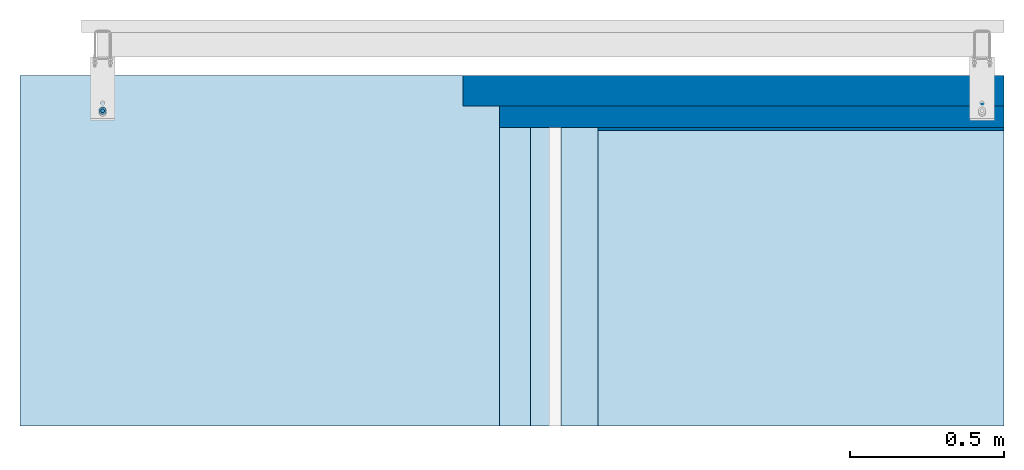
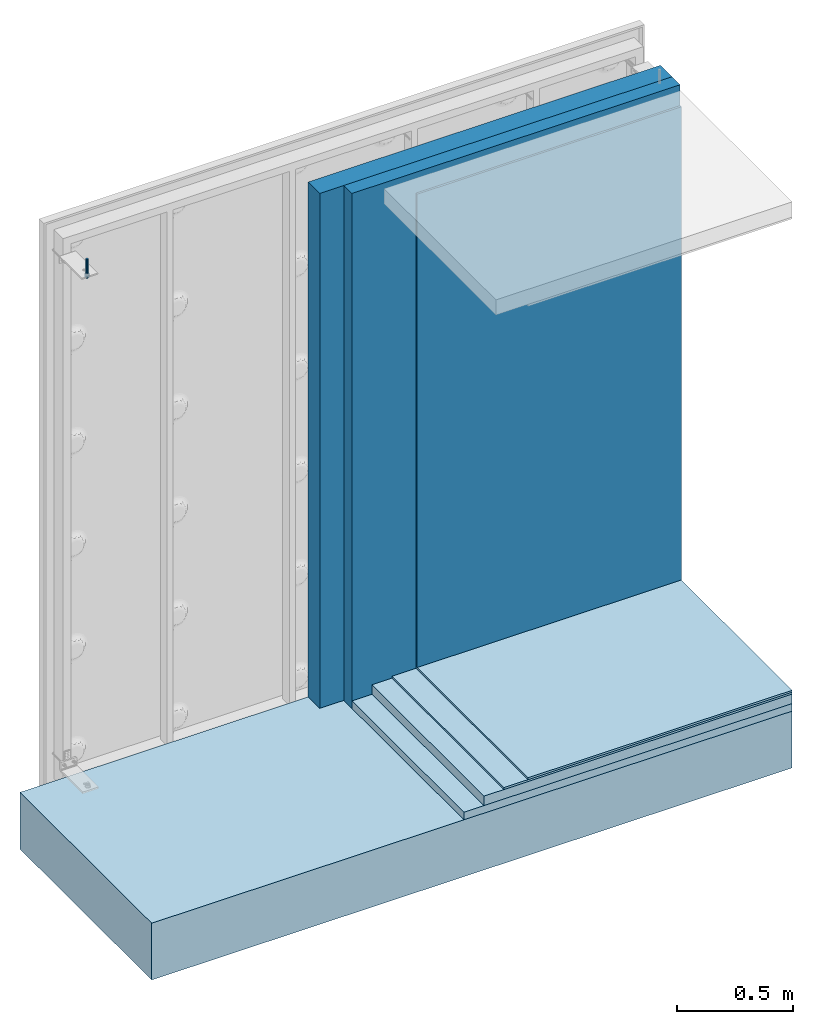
# One storey, part 1 of 13: 5 slabs, 3 walls, 1 assembly.
"""IFC2X3 building model written with IfcOpenShell, lengths in metres."""

from ifc_helpers import new_model, entity, si_unit, converted_unit, derived_unit, direction, frame, frame_2d, origin, origin_2d_with_axis, place, context, subcontext, project, spatial, polyline, circle_curve, parameter, trimmed, segment, composite_curve, rectangle, circle, hollow_circle, outline, extrude, source, transform, mapped, material, layer, layer_set, layer_usage, type_object, type_shapes, element, save


model = new_model("IFC2X3")

# Units and contexts
model_context = context("Model", 3, precision=1e-05, world=origin(), true_north=direction((6.123031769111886e-17, 1.0)))
body_context = subcontext(model_context, "Body", "Model", "MODEL_VIEW")
ifc_project = project(units=[si_unit("LENGTHUNIT", "METRE"), si_unit("AREAUNIT", "SQUARE_METRE"), converted_unit("PLANEANGLEUNIT", "DEGREE", entity("IfcPlaneAngleMeasure", 0.017453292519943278), si_unit("PLANEANGLEUNIT", "RADIAN"), dimensions=[0, 0, 0, 0, 0, 0, 0]), si_unit("VOLUMEUNIT", "CUBIC_METRE"), derived_unit("THERMALTRANSMITTANCEUNIT", [(si_unit("MASSUNIT", "GRAM", prefix="KILO"), 1), (si_unit("THERMODYNAMICTEMPERATUREUNIT", "KELVIN"), -1), (si_unit("TIMEUNIT", "SECOND"), -3)]), derived_unit("USERDEFINED", [(si_unit("MASSUNIT", "GRAM", prefix="KILO"), 1), (si_unit("THERMODYNAMICTEMPERATUREUNIT", "KELVIN"), -1), (si_unit("TIMEUNIT", "SECOND"), -2)]), derived_unit("THERMALRESISTANCEUNIT", [(si_unit("MASSUNIT", "GRAM", prefix="KILO"), -1), (si_unit("TIMEUNIT", "SECOND"), 3), (si_unit("THERMODYNAMICTEMPERATUREUNIT", "KELVIN"), 1)]), derived_unit("MASSDENSITYUNIT", [(si_unit("MASSUNIT", "GRAM", prefix="KILO"), 1), (si_unit("LENGTHUNIT", "METRE"), -3)]), derived_unit("VAPORPERMEABILITYUNIT", [(si_unit("LENGTHUNIT", "METRE"), -1), (si_unit("TIMEUNIT", "SECOND"), 1)]), derived_unit("USERDEFINED", [(si_unit("MASSUNIT", "GRAM", prefix="KILO"), 1), (si_unit("TIMEUNIT", "SECOND"), -3), (si_unit("LENGTHUNIT", "METRE"), 3), (si_unit("ELECTRICCURRENTUNIT", "AMPERE"), -2)]), si_unit("PRESSUREUNIT", "PASCAL")], contexts=[model_context])

# Site, building, storey
site_placement = place(None, origin())
site = spatial("IfcSite", under=ifc_project, at=site_placement, Name="Default", CompositionType="ELEMENT")
building_placement = place(site_placement, origin())
building = spatial("IfcBuilding", under=site, at=building_placement, CompositionType="ELEMENT")
storey_placement = place(building_placement, origin())
storey = spatial("IfcBuildingStorey", under=building, at=storey_placement, Name="L0", CompositionType="ELEMENT", Elevation=0.0)

# Slabs
ifc_material_1 = material(Name="DPG_Losa Principal Obra")
ifc_layer_1 = layer(ifc_material_1, 0.30000000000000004)
ifc_layer_set_1 = layer_set([ifc_layer_1], Name="Suelo:DPG_Losa Principal Obra")
ifc_layer_usage_1 = layer_usage(ifc_layer_set_1, "AXIS3", "POSITIVE", 0.0)
slab_type_1 = type_object("IfcSlabType", Name="Suelo:DPG_Losa Principal Obra", PredefinedType="FLOOR", material=ifc_layer_set_1)
slab_1_placement = place(storey_placement, origin())
element("IfcSlab", 1, at=slab_1_placement, inside=storey, type_object=slab_type_1, material=ifc_layer_usage_1, Name="Suelo:DPG_Losa Principal Obra", ObjectType="Suelo:DPG_Losa Principal Obra", PredefinedType="FLOOR", context=body_context, shape_type="SweptSolid", body=[
    extrude(rectangle(XDim=1.140000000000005, YDim=3.2, at=origin_2d_with_axis()), frame((6.287720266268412, 15.364530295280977, 0.0), z_axis=(0.0, 0.0, -1.0), x_axis=(0.0, 1.0, 0.0)), (0.0, 0.0, 1.0), 0.30000000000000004),
])
ifc_material_2 = material(Name="Lana de roca")
ifc_layer_2 = layer(ifc_material_2, 0.04)
ifc_layer_set_2 = layer_set([ifc_layer_2], Name="Suelo:DPG_Aislamiento Suelo")
ifc_layer_usage_2 = layer_usage(ifc_layer_set_2, "AXIS3", "POSITIVE", 0.0)
slab_type_2 = type_object("IfcSlabType", Name="Suelo:DPG_Aislamiento Suelo", PredefinedType="FLOOR", material=ifc_layer_set_2)
slab_2_placement = place(storey_placement, origin())
element("IfcSlab", 2, at=slab_2_placement, inside=storey, type_object=slab_type_2, material=ifc_layer_usage_2, Name="Suelo:DPG_Aislamiento Suelo", ObjectType="Suelo:DPG_Aislamiento Suelo", PredefinedType="FLOOR", context=body_context, shape_type="SweptSolid", body=[
    extrude(rectangle(XDim=0.9699999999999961, YDim=1.6399999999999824, at=origin_2d_with_axis()), frame((7.067720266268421, 15.279530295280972, 0.04), z_axis=(0.0, 0.0, -1.0), x_axis=(0.0, 1.0, 0.0)), (0.0, 0.0, 1.0), 0.04),
])
ifc_material_3 = material(Name="Hormigón, ligero")
ifc_layer_3 = layer(ifc_material_3, 0.05)
ifc_layer_set_3 = layer_set([ifc_layer_3], Name="Suelo:DPG_Recrecido")
ifc_layer_usage_3 = layer_usage(ifc_layer_set_3, "AXIS3", "POSITIVE", 0.0)
slab_type_3 = type_object("IfcSlabType", Name="Suelo:DPG_Recrecido", PredefinedType="FLOOR", material=ifc_layer_set_3)
slab_3_placement = place(storey_placement, origin())
element("IfcSlab", 3, at=slab_3_placement, inside=storey, type_object=slab_type_3, material=ifc_layer_usage_3, Name="Suelo:DPG_Recrecido", ObjectType="Suelo:DPG_Recrecido", PredefinedType="FLOOR", context=body_context, shape_type="SweptSolid", body=[
    extrude(rectangle(XDim=0.9699999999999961, YDim=1.5399999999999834, at=origin_2d_with_axis()), frame((7.11772026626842, 15.279530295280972, 0.09), z_axis=(0.0, 0.0, -1.0), x_axis=(0.0, 1.0, 0.0)), (0.0, 0.0, 1.0), 0.05),
])
ifc_material_4 = material(Name="Hormigón - Hormigón moldeado in situ")
ifc_layer_4 = layer(ifc_material_4, 0.01)
ifc_layer_set_4 = layer_set([ifc_layer_4], Name="Suelo:DPG_Pegamento cemento")
ifc_layer_usage_4 = layer_usage(ifc_layer_set_4, "AXIS3", "POSITIVE", 0.0)
slab_type_4 = type_object("IfcSlabType", Name="Suelo:DPG_Pegamento cemento", PredefinedType="FLOOR", material=ifc_layer_set_4)
slab_4_placement = place(storey_placement, origin())
element("IfcSlab", 4, at=slab_4_placement, inside=storey, type_object=slab_type_4, material=ifc_layer_usage_4, Name="Suelo:DPG_Pegamento cemento", ObjectType="Suelo:DPG_Pegamento cemento", PredefinedType="FLOOR", context=body_context, shape_type="SweptSolid", body=[
    extrude(rectangle(XDim=0.969999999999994, YDim=1.4399999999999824, at=frame_2d((1.0824674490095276e-15, 0.0), x_axis=(1.0, 0.0))), frame((7.167720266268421, 15.27953029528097, 0.09999999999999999), z_axis=(0.0, 0.0, -1.0), x_axis=(0.0, 1.0, 0.0)), (0.0, 0.0, 1.0), 0.009999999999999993),
])
ifc_material_5 = material(Name="Azulejo, porcelana, 6 pulg.")
ifc_layer_5 = layer(ifc_material_5, 0.01)
ifc_layer_set_5 = layer_set([ifc_layer_5], Name="Suelo:DPG_Ceramica")
ifc_layer_usage_5 = layer_usage(ifc_layer_set_5, "AXIS3", "POSITIVE", 0.0)
slab_type_5 = type_object("IfcSlabType", Name="Suelo:DPG_Ceramica", PredefinedType="FLOOR", material=ifc_layer_set_5)
slab_5_placement = place(storey_placement, origin())
element("IfcSlab", 5, at=slab_5_placement, inside=storey, type_object=slab_type_5, material=ifc_layer_usage_5, Name="Suelo:DPG_Ceramica", ObjectType="Suelo:DPG_Ceramica", PredefinedType="FLOOR", context=body_context, shape_type="SweptSolid", body=[
    extrude(rectangle(XDim=0.9699999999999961, YDim=1.3199999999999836, at=origin_2d_with_axis()), frame((7.22772026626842, 15.279530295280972, 0.10999999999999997), z_axis=(0.0, 0.0, -1.0), x_axis=(0.0, 1.0, 0.0)), (0.0, 0.0, 1.0), 0.009999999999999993),
])

# Walls
ifc_layer_6 = layer(ifc_material_2, 0.1)
ifc_layer_set_6 = layer_set([ifc_layer_6], Name="Muro básico:DPG_Aislamiento")
ifc_layer_usage_6 = layer_usage(ifc_layer_set_6, "AXIS2", "NEGATIVE", 0.05)
wall_type_1 = type_object("IfcWallType", Name="Muro básico:DPG_Aislamiento", PredefinedType="STANDARD", material=ifc_layer_set_6)
wall_1_placement = place(storey_placement, frame((6.12772026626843, 15.884530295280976, 0.0)))
element("IfcWallStandardCase", 6, at=wall_1_placement, inside=storey, type_object=wall_type_1, material=ifc_layer_usage_6, Name="Muro básico:DPG_Aislamiento", ObjectType="Muro básico:DPG_Aislamiento", context=body_context, shape_type="SweptSolid", body=[
    extrude(rectangle(XDim=1.759999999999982, YDim=0.09999999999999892, at=frame_2d((0.879999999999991, 2.0816681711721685e-16), x_axis=(-1.0, 0.0))), origin(), (0.0, 0.0, 1.0), 2.7199999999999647),
])
ifc_material_6 = material(Name="Ladrillo, común, marrón")
ifc_layer_7 = layer(ifc_material_6, 0.07)
ifc_layer_set_7 = layer_set([ifc_layer_7], Name="Muro básico:DPG_Ladrillo")
ifc_layer_usage_7 = layer_usage(ifc_layer_set_7, "AXIS2", "NEGATIVE", 0.035)
wall_type_2 = type_object("IfcWallType", Name="Muro básico:DPG_Ladrillo", PredefinedType="STANDARD", material=ifc_layer_set_7)
wall_2_placement = place(storey_placement, frame((6.24772026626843, 15.799530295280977, 0.0)))
element("IfcWallStandardCase", 7, at=wall_2_placement, inside=storey, type_object=wall_type_2, material=ifc_layer_usage_7, Name="Muro básico:DPG_Ladrillo", ObjectType="Muro básico:DPG_Ladrillo", context=body_context, shape_type="SweptSolid", body=[
    extrude(rectangle(XDim=1.6399999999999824, YDim=0.07000000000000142, at=frame_2d((0.8199999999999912, -7.806255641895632e-16), x_axis=(-1.0, 0.0))), origin(), (0.0, 0.0, 1.0), 2.72),
])
ifc_material_7 = material(Name="Enlucido")
ifc_layer_8 = layer(ifc_material_7, 0.01)
ifc_layer_set_8 = layer_set([ifc_layer_8], Name="Muro básico:DPG_Enlucido")
ifc_layer_usage_8 = layer_usage(ifc_layer_set_8, "AXIS2", "NEGATIVE", 0.005000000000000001)
wall_type_3 = type_object("IfcWallType", Name="Muro básico:DPG_Enlucido", PredefinedType="STANDARD", material=ifc_layer_set_8)
wall_3_placement = place(storey_placement, frame((6.567720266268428, 15.759530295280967, 0.1099999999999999)))
element("IfcWallStandardCase", 8, at=wall_3_placement, inside=storey, type_object=wall_type_3, material=ifc_layer_usage_8, Name="Muro básico:DPG_Enlucido", ObjectType="Muro básico:DPG_Enlucido", context=body_context, shape_type="SweptSolid", body=[
    extrude(rectangle(XDim=1.3199999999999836, YDim=0.010000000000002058, at=frame_2d((0.6599999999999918, 0.0), x_axis=(-1.0, 0.0))), origin(), (0.0, 0.0, 1.0), 2.5),
])

# Assembly
ifc_material_8 = material(Name="REC_Acero, S 275JR (Zincado)")
type_product = type_object("IfcTypeProduct", Name="REC-AEM12-100:AEM12-100", material=ifc_material_8)
shared_shape = source(origin(), body_context, "Body", "SweptSolid", [
    extrude(outline(polyline([(-0.005890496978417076, -0.010202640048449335), (0.005890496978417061, -0.010202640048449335), (0.01178099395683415, 0.0), (0.005890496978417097, 0.010202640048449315), (-0.0058904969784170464, 0.010202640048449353), (-0.011780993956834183, 0.0), (-0.005890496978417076, -0.010202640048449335)]), holes=[composite_curve([segment(trimmed(circle_curve(frame_2d((6.043164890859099e-09, 0.0), x_axis=(1.0, 0.0)), 0.005999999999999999), [parameter(3.053332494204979e-13)], [parameter(180.0)], True, "PARAMETER"), False, "CONTINUOUS"), segment(trimmed(circle_curve(frame_2d((6.043164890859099e-09, 0.0), x_axis=(1.0, 0.0)), 0.005999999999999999), [parameter(179.99999999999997)], [parameter(0.0)], True, "PARAMETER"), False, "CONTINUOUS")], self_intersect=False)]), frame((-6.043164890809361e-09, 0.0, 0.002399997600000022)), (0.0, 0.0, 1.0), 0.009600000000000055),
    extrude(hollow_circle(Radius=0.011999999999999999, WallThickness=0.004999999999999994, at=frame_2d((1.062573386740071e-19, -1.9386534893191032e-17), x_axis=(1.0, 0.0))), origin(), (0.0, 0.0, 1.0), 0.002399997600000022),
    extrude(circle(Radius=0.006, at=frame_2d((1.3218592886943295e-19, -9.69326744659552e-18), x_axis=(1.0, 0.0))), frame((0.0, 0.0, -0.05)), (0.0, 0.0, 1.0), 0.07),
    extrude(circle(Radius=0.006, at=frame_2d((1.3218592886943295e-19, -9.69326744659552e-18), x_axis=(1.0, 0.0))), frame((0.0, 0.0, -0.08)), (0.0, 0.0, 1.0), 0.027000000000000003),
    extrude(circle(Radius=0.005, at=frame_2d((1.3218592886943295e-19, -8.077722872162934e-18), x_axis=(1.0, 0.0))), frame((0.0, 0.0, -0.053)), (0.0, 0.0, 1.0), 0.002999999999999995),
])
type_shapes(type_product, [shared_shape])
assembly_placement = place(storey_placement, frame((4.95624754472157, 15.819530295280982, 2.7139999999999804), z_axis=(0.0, 0.0, -1.0), x_axis=(1.0, 0.0, 0.0)))
element("IfcElementAssembly", 9, at=assembly_placement, inside=storey, type_object=type_product, material=ifc_material_8, Name="REC-AEM12-100:AEM12-100", ObjectType="REC-AEM12-100:AEM12-100", AssemblyPlace="NOTDEFINED", PredefinedType="NOTDEFINED", context=body_context, shape_type="MappedRepresentation", body=[
    mapped(shared_shape, transform((0.0, 0.0, 0.0), scale=1.0)),
])

save(model, "model.ifc")
